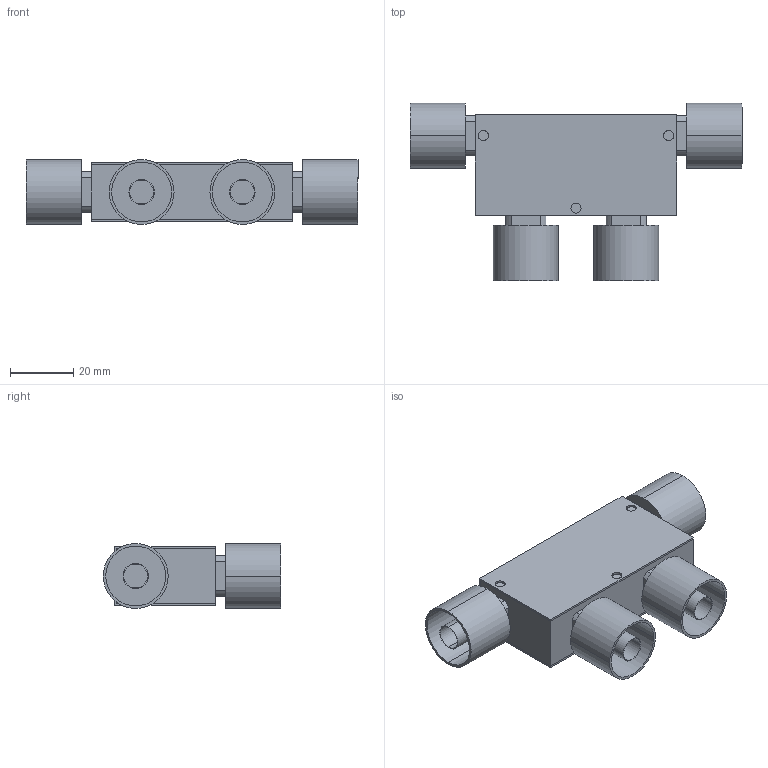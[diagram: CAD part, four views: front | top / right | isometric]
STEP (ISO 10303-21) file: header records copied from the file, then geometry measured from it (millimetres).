
FILE_DESCRIPTION (( 'STEP AP214' ), '1' );
FILE_NAME ('Package 13 Circ MMMM Type-N.step', '2021-12-01T20:57:24', ( '' ), ( '' ), 'SwSTEP 2.0', 'SolidWorks 2016', '' );
FILE_SCHEMA (( 'AUTOMOTIVE_DESIGN' ));
Length unit declared in the file: inch
Products named in the file (4): Delta Type N Male, 0.5in flange; Package Size 13; Package 13; Package 13 Circ MMMM Type-N
Assembly tree (6 placements, depth 2):
  Package 13 Circ MMMM Type-N
    Package 13
    Delta Type N Male, 0.5in flange  x4
    Package Size 13
Bounding box: 104.65 x 55.94 x 20.45 mm (x, y, z)
Volume: 45288.4 mm3; surface area: 32154.3 mm2
Topology: 6 solids, 6 shells, 164 faces, 360 edges, 240 vertices
Faces by surface type: cylinder 92, plane 72
Entity records: 2014 total; most frequent: DIRECTION 350, CARTESIAN_POINT 311, ORIENTED_EDGE 288, EDGE_CURVE 144, AXIS2_PLACEMENT_3D 135, VERTEX_POINT 96, EDGE_LOOP 82, LINE 80
